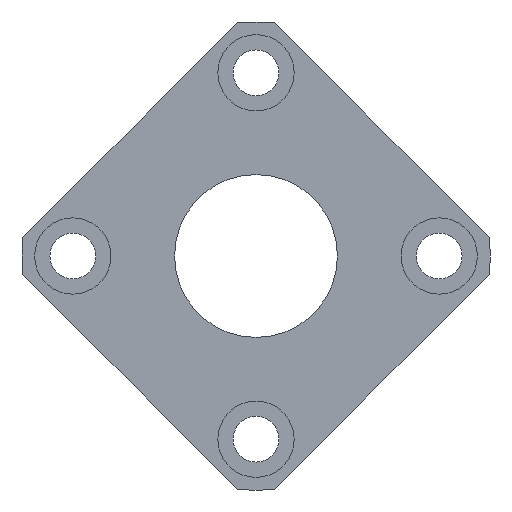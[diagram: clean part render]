
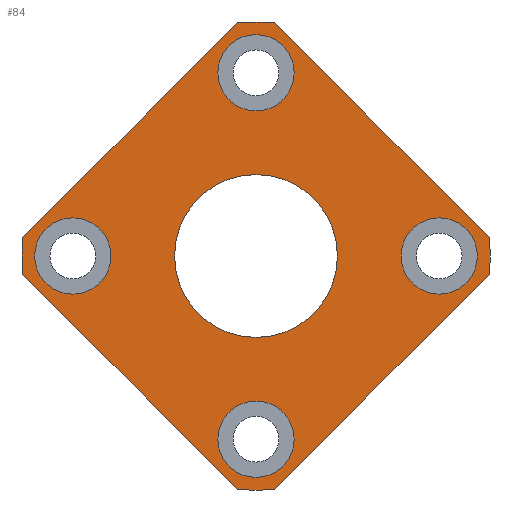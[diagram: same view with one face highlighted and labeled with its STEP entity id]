
A CAD part, left-side view. The second image highlights one B-rep face of the part: STEP entity #84.
In plain terms, the highlighted planar face has unit normal (-1, 0, 0).
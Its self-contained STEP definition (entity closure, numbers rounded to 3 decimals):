
#84 = ADVANCED_FACE( '', ( #125, #126, #127, #128, #129, #130 ), #131, .T. );
#125 = FACE_BOUND( '', #200, .T. );
#126 = FACE_BOUND( '', #201, .T. );
#127 = FACE_OUTER_BOUND( '', #202, .T. );
#128 = FACE_BOUND( '', #203, .T. );
#129 = FACE_BOUND( '', #204, .T. );
#130 = FACE_BOUND( '', #205, .T. );
#131 = PLANE( '', #206 );
#200 = EDGE_LOOP( '', ( #321 ) );
#201 = EDGE_LOOP( '', ( #322 ) );
#202 = EDGE_LOOP( '', ( #323, #324, #325, #326, #327, #328, #329, #330 ) );
#203 = EDGE_LOOP( '', ( #331 ) );
#204 = EDGE_LOOP( '', ( #332 ) );
#205 = EDGE_LOOP( '', ( #333 ) );
#206 = AXIS2_PLACEMENT_3D( '', #334, #335, #336 );
#321 = ORIENTED_EDGE( '', *, *, #444, .T. );
#322 = ORIENTED_EDGE( '', *, *, #434, .T. );
#323 = ORIENTED_EDGE( '', *, *, #445, .F. );
#324 = ORIENTED_EDGE( '', *, *, #430, .F. );
#325 = ORIENTED_EDGE( '', *, *, #419, .F. );
#326 = ORIENTED_EDGE( '', *, *, #427, .F. );
#327 = ORIENTED_EDGE( '', *, *, #415, .F. );
#328 = ORIENTED_EDGE( '', *, *, #429, .F. );
#329 = ORIENTED_EDGE( '', *, *, #423, .F. );
#330 = ORIENTED_EDGE( '', *, *, #443, .F. );
#331 = ORIENTED_EDGE( '', *, *, #446, .T. );
#332 = ORIENTED_EDGE( '', *, *, #447, .T. );
#333 = ORIENTED_EDGE( '', *, *, #448, .T. );
#334 = CARTESIAN_POINT( '', ( 0., 23., 0. ) );
#335 = DIRECTION( '', ( -1., 0., 0. ) );
#336 = DIRECTION( '', ( 0., 0., 1. ) );
#415 = EDGE_CURVE( '', #459, #461, #462, .T. );
#419 = EDGE_CURVE( '', #467, #469, #470, .T. );
#423 = EDGE_CURVE( '', #475, #477, #478, .T. );
#427 = EDGE_CURVE( '', #461, #467, #483, .T. );
#429 = EDGE_CURVE( '', #477, #459, #485, .T. );
#430 = EDGE_CURVE( '', #469, #486, #487, .T. );
#434 = EDGE_CURVE( '', #493, #493, #494, .F. );
#443 = EDGE_CURVE( '', #508, #475, #510, .T. );
#444 = EDGE_CURVE( '', #511, #511, #512, .T. );
#445 = EDGE_CURVE( '', #486, #508, #513, .T. );
#446 = EDGE_CURVE( '', #514, #514, #515, .T. );
#447 = EDGE_CURVE( '', #516, #516, #517, .T. );
#448 = EDGE_CURVE( '', #518, #518, #519, .T. );
#459 = VERTEX_POINT( '', #539 );
#461 = VERTEX_POINT( '', #542 );
#462 = LINE( '', #543, #544 );
#467 = VERTEX_POINT( '', #551 );
#469 = VERTEX_POINT( '', #554 );
#470 = LINE( '', #555, #556 );
#475 = VERTEX_POINT( '', #563 );
#477 = VERTEX_POINT( '', #566 );
#478 = LINE( '', #567, #568 );
#483 = CIRCLE( '', #575, 23. );
#485 = CIRCLE( '', #577, 23. );
#486 = VERTEX_POINT( '', #578 );
#487 = CIRCLE( '', #579, 23. );
#493 = VERTEX_POINT( '', #586 );
#494 = CIRCLE( '', #587, 3.75 );
#508 = VERTEX_POINT( '', #602 );
#510 = CIRCLE( '', #605, 23. );
#511 = VERTEX_POINT( '', #606 );
#512 = CIRCLE( '', #607, 8. );
#513 = LINE( '', #608, #609 );
#514 = VERTEX_POINT( '', #610 );
#515 = CIRCLE( '', #611, 3.75 );
#516 = VERTEX_POINT( '', #612 );
#517 = CIRCLE( '', #613, 3.75 );
#518 = VERTEX_POINT( '', #614 );
#519 = CIRCLE( '', #615, 3.75 );
#539 = CARTESIAN_POINT( '', ( 0., -22.928, -1.821 ) );
#542 = CARTESIAN_POINT( '', ( 0., -1.821, -22.928 ) );
#543 = CARTESIAN_POINT( '', ( 0., -24.749, 0. ) );
#544 = VECTOR( '', #635, 1000. );
#551 = CARTESIAN_POINT( '', ( 0., 1.821, -22.928 ) );
#554 = CARTESIAN_POINT( '', ( 0., 22.928, -1.821 ) );
#555 = CARTESIAN_POINT( '', ( 0., 0., -24.749 ) );
#556 = VECTOR( '', #639, 1000. );
#563 = CARTESIAN_POINT( '', ( 0., -1.821, 22.928 ) );
#566 = CARTESIAN_POINT( '', ( 0., -22.928, 1.821 ) );
#567 = CARTESIAN_POINT( '', ( 0., 0., 24.749 ) );
#568 = VECTOR( '', #643, 1000. );
#575 = AXIS2_PLACEMENT_3D( '', #649, #650, #651 );
#577 = AXIS2_PLACEMENT_3D( '', #655, #656, #657 );
#578 = CARTESIAN_POINT( '', ( 0., 22.928, 1.821 ) );
#579 = AXIS2_PLACEMENT_3D( '', #658, #659, #660 );
#586 = CARTESIAN_POINT( '', ( 0., 18., 3.75 ) );
#587 = AXIS2_PLACEMENT_3D( '', #668, #669, #670 );
#602 = CARTESIAN_POINT( '', ( 0., 1.821, 22.928 ) );
#605 = AXIS2_PLACEMENT_3D( '', #691, #692, #693 );
#606 = CARTESIAN_POINT( '', ( 0., 0., -8. ) );
#607 = AXIS2_PLACEMENT_3D( '', #694, #695, #696 );
#608 = CARTESIAN_POINT( '', ( 0., 24.749, 0. ) );
#609 = VECTOR( '', #697, 1000. );
#610 = CARTESIAN_POINT( '', ( 0., 0., 14.25 ) );
#611 = AXIS2_PLACEMENT_3D( '', #698, #699, #700 );
#612 = CARTESIAN_POINT( '', ( 0., 0., -21.75 ) );
#613 = AXIS2_PLACEMENT_3D( '', #701, #702, #703 );
#614 = CARTESIAN_POINT( '', ( 0., -18., -3.75 ) );
#615 = AXIS2_PLACEMENT_3D( '', #704, #705, #706 );
#635 = DIRECTION( '', ( 0., 0.707, -0.707 ) );
#639 = DIRECTION( '', ( 0., 0.707, 0.707 ) );
#643 = DIRECTION( '', ( 0., -0.707, -0.707 ) );
#649 = CARTESIAN_POINT( '', ( 0., 0., 0. ) );
#650 = DIRECTION( '', ( 1., 0., 0. ) );
#651 = DIRECTION( '', ( 0., 0., -1. ) );
#655 = CARTESIAN_POINT( '', ( 0., 0., 0. ) );
#656 = DIRECTION( '', ( 1., 0., 0. ) );
#657 = DIRECTION( '', ( 0., 0., -1. ) );
#658 = CARTESIAN_POINT( '', ( 0., 0., 0. ) );
#659 = DIRECTION( '', ( 1., 0., 0. ) );
#660 = DIRECTION( '', ( 0., 0., -1. ) );
#668 = CARTESIAN_POINT( '', ( 0., 18., 0. ) );
#669 = DIRECTION( '', ( -1., 0., 0. ) );
#670 = DIRECTION( '', ( 0., 0., 1. ) );
#691 = CARTESIAN_POINT( '', ( 0., 0., 0. ) );
#692 = DIRECTION( '', ( 1., 0., 0. ) );
#693 = DIRECTION( '', ( 0., 0., -1. ) );
#694 = CARTESIAN_POINT( '', ( 0., 0., 0. ) );
#695 = DIRECTION( '', ( 1., 0., 0. ) );
#696 = DIRECTION( '', ( 0., 0., -1. ) );
#697 = DIRECTION( '', ( 0., -0.707, 0.707 ) );
#698 = CARTESIAN_POINT( '', ( 0., 0., 18. ) );
#699 = DIRECTION( '', ( 1., 0., 0. ) );
#700 = DIRECTION( '', ( 0., 0., -1. ) );
#701 = CARTESIAN_POINT( '', ( 0., 0., -18. ) );
#702 = DIRECTION( '', ( 1., 0., 0. ) );
#703 = DIRECTION( '', ( 0., 0., -1. ) );
#704 = CARTESIAN_POINT( '', ( 0., -18., 0. ) );
#705 = DIRECTION( '', ( 1., 0., 0. ) );
#706 = DIRECTION( '', ( 0., 0., -1. ) );
